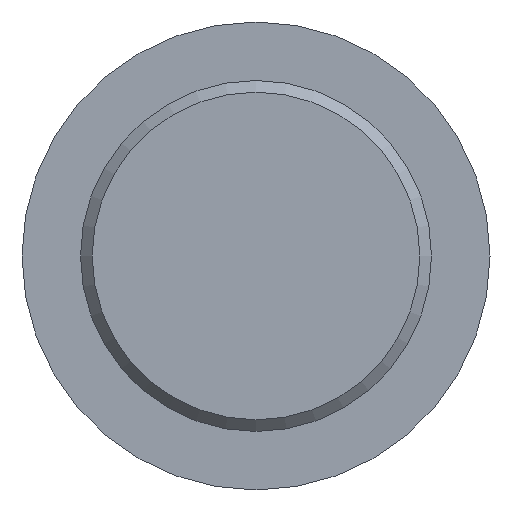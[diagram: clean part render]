
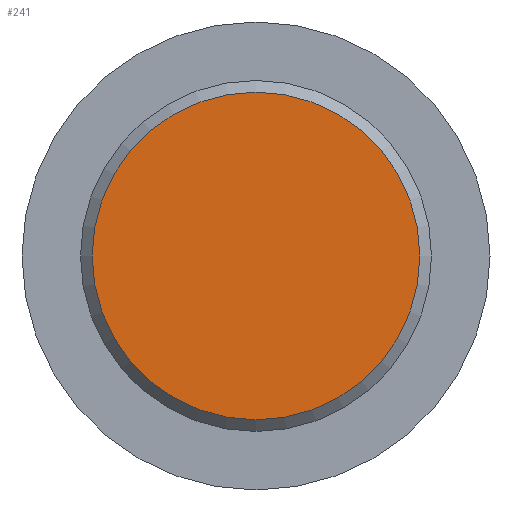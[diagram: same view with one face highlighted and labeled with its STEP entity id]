
A CAD part, front view. The second image highlights one B-rep face of the part: STEP entity #241.
In plain terms, the highlighted planar face has unit normal (0, -1, 0).
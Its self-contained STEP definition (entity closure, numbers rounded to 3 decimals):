
#26=PLANE('',#279);
#34=FACE_OUTER_BOUND('',#49,.T.);
#49=EDGE_LOOP('',(#175));
#86=CIRCLE('',#278,7.);
#112=VERTEX_POINT('',#414);
#139=EDGE_CURVE('',#112,#112,#86,.T.);
#175=ORIENTED_EDGE('',*,*,#139,.F.);
#241=ADVANCED_FACE('',(#34),#26,.T.);
#278=AXIS2_PLACEMENT_3D('',#416,#325,#326);
#279=AXIS2_PLACEMENT_3D('',#417,#327,#328);
#325=DIRECTION('center_axis',(0.,1.,0.));
#326=DIRECTION('ref_axis',(0.,0.,-1.));
#327=DIRECTION('center_axis',(0.,-1.,0.));
#328=DIRECTION('ref_axis',(0.,0.,-1.));
#414=CARTESIAN_POINT('',(0.,-650.,7.));
#416=CARTESIAN_POINT('Origin',(0.,-650.,0.));
#417=CARTESIAN_POINT('Origin',(0.,-650.,7.5));
